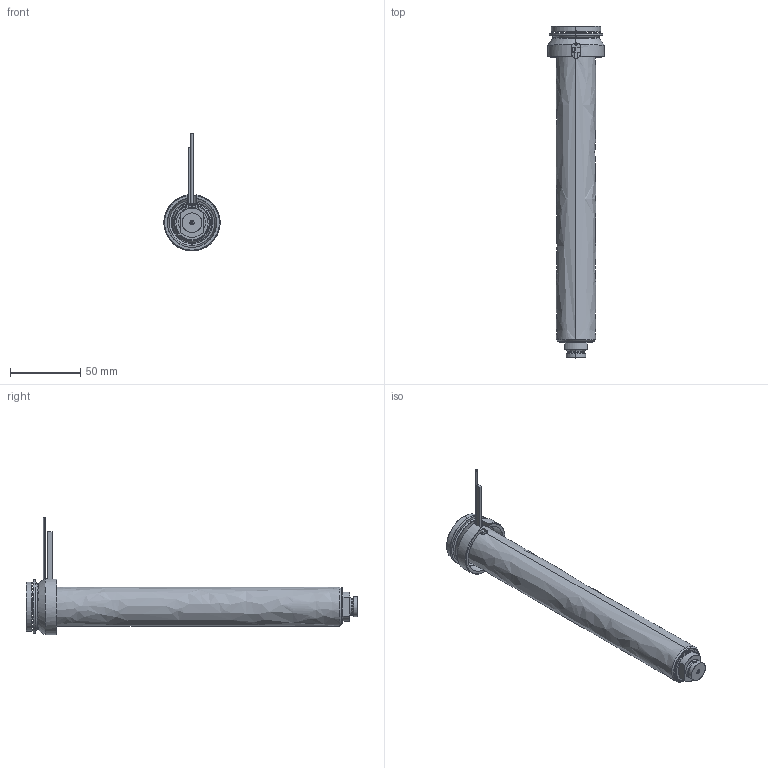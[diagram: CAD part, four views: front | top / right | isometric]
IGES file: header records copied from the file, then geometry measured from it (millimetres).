
Start section: SolidWorks IGES file using analytic representation for surfaces
Global section: file name: C:\Documents and Settings\ws-20\Desktop\TEM\UGEP4105-S-A-1 [Øf-1.31 P-0 ØC-10].IGS; native system: SolidWorks 2012; preprocessor: SolidWorks 2012; author: ws-20; date: 120426.090248; units: millimetre
Bounding box: 40 x 236 x 83.65 mm (x, y, z)
Surface area: 69517.6 mm2 (no closed solid volume)
Topology: 0 solids, 0 shells, 116 faces, 1992 edges, 1992 vertices
Faces by surface type: revolution 70, bspline 46
